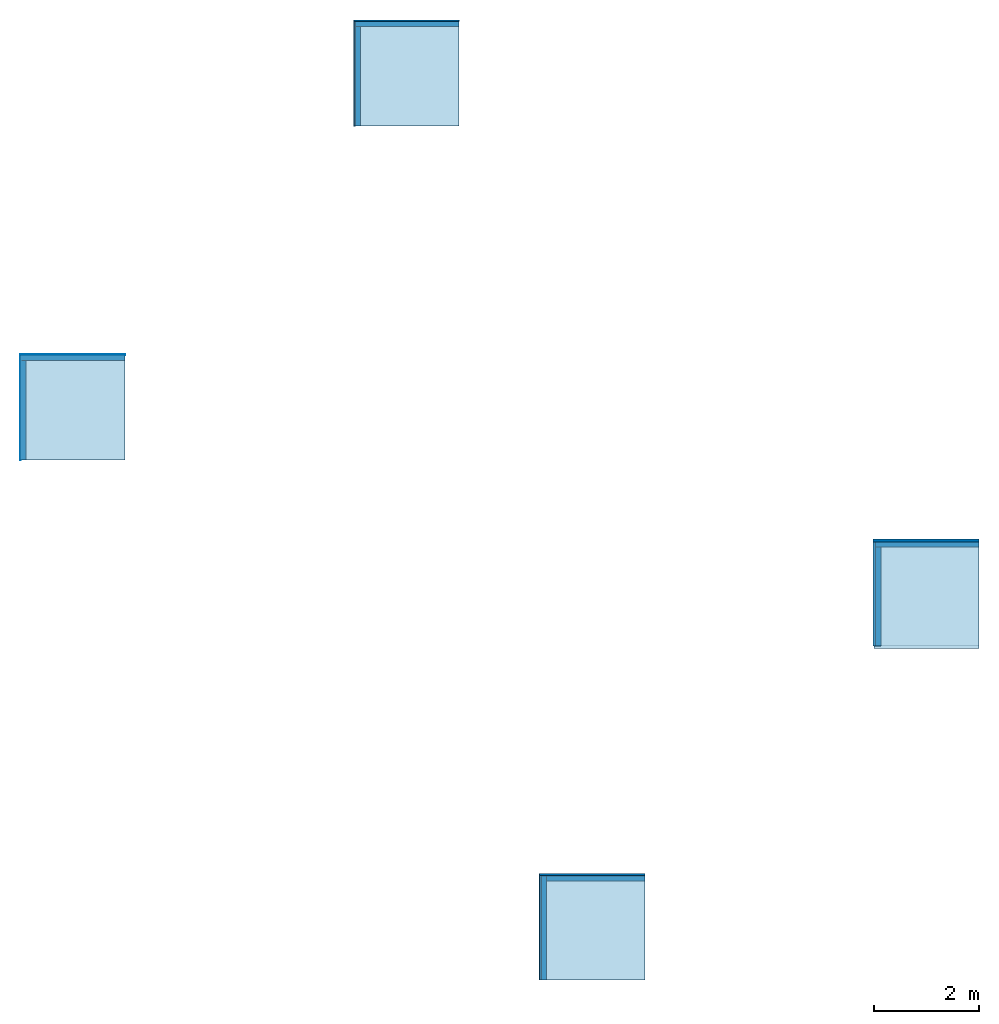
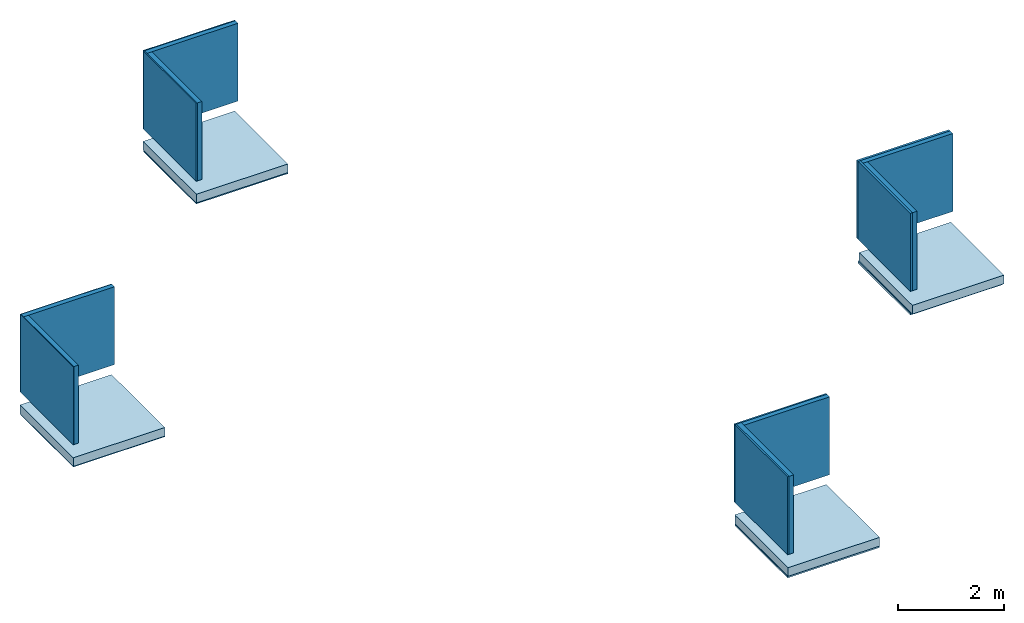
# One storey: 16 walls, 8 slabs.
"""IFC2X3 building model written with IfcOpenShell, lengths in millimetres."""

from ifc_helpers import new_model, entity, si_unit, converted_unit, derived_unit, direction, frame, frame_2d, origin, origin_2d_with_axis, place, context, subcontext, project, spatial, rectangle, extrude, material, layer, layer_set, layer_usage, type_object, element, save


model = new_model("IFC2X3")

# Units and contexts
model_context = context("Model", 3, precision=0.01, world=origin(), true_north=direction((6.12303176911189e-17, 1.0)))
context_of_model = context(None, 3, precision=0.01, world=origin(), true_north=direction((6.12303176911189e-17, 1.0)))
body_context = subcontext(model_context, "Body", "Model", "MODEL_VIEW")
ifc_project = project(units=[si_unit("LENGTHUNIT", "METRE", prefix="MILLI"), si_unit("AREAUNIT", "SQUARE_METRE"), si_unit("VOLUMEUNIT", "CUBIC_METRE"), converted_unit("PLANEANGLEUNIT", "DEGREE", entity("IfcRatioMeasure", 0.0174532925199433), si_unit("PLANEANGLEUNIT", "RADIAN"), dimensions=[0, 0, 0, 0, 0, 0, 0]), si_unit("MASSUNIT", "GRAM", prefix="KILO"), si_unit("TIMEUNIT", "SECOND"), si_unit("FREQUENCYUNIT", "HERTZ"), si_unit("THERMODYNAMICTEMPERATUREUNIT", "DEGREE_CELSIUS"), derived_unit("THERMALTRANSMITTANCEUNIT", [(si_unit("MASSUNIT", "GRAM", prefix="KILO"), 1), (si_unit("THERMODYNAMICTEMPERATUREUNIT", "KELVIN"), -1), (si_unit("TIMEUNIT", "SECOND"), -3)]), derived_unit("VOLUMETRICFLOWRATEUNIT", [(si_unit("LENGTHUNIT", "METRE"), 3), (si_unit("TIMEUNIT", "SECOND"), -1)]), si_unit("ELECTRICCURRENTUNIT", "AMPERE"), si_unit("ELECTRICVOLTAGEUNIT", "VOLT"), si_unit("POWERUNIT", "WATT"), si_unit("FORCEUNIT", "NEWTON", prefix="KILO"), si_unit("ILLUMINANCEUNIT", "LUX"), si_unit("LUMINOUSFLUXUNIT", "LUMEN"), si_unit("LUMINOUSINTENSITYUNIT", "CANDELA"), derived_unit("USERDEFINED", [(si_unit("MASSUNIT", "GRAM", prefix="KILO"), -1), (si_unit("LENGTHUNIT", "METRE"), -2), (si_unit("TIMEUNIT", "SECOND"), 3), (si_unit("LUMINOUSFLUXUNIT", "LUMEN"), 1)]), derived_unit("LINEARVELOCITYUNIT", [(si_unit("LENGTHUNIT", "METRE"), 1), (si_unit("TIMEUNIT", "SECOND"), -1)]), si_unit("PRESSUREUNIT", "PASCAL"), derived_unit("USERDEFINED", [(si_unit("LENGTHUNIT", "METRE"), -2), (si_unit("MASSUNIT", "GRAM", prefix="KILO"), 1), (si_unit("TIMEUNIT", "SECOND"), -2)])], contexts=[model_context, context_of_model])

# Site, building, storey
site_placement = place(None, origin())
site = spatial("IfcSite", under=ifc_project, at=site_placement, Name="Default", CompositionType="ELEMENT")
building_placement = place(site_placement, origin())
building = spatial("IfcBuilding", under=site, at=building_placement, CompositionType="ELEMENT")
storey_placement = place(building_placement, origin())
storey = spatial("IfcBuildingStorey", under=building, at=storey_placement, Name="00 begane grond", CompositionType="ELEMENT", Elevation=-2.77069864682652e-11)

# Slabs
ifc_material_1 = material(Name="Heraklith® | Basis - Houtwollaag - 2000x600mm")
ifc_layer_1 = layer(ifc_material_1, 15.0)
ifc_layer_set_1 = layer_set([ifc_layer_1], Name="Floor:NLRS_23_FL_Heraklith - Basis 15x2000x600mm")
ifc_layer_usage_1 = layer_usage(ifc_layer_set_1, "AXIS3", "POSITIVE", 0.0)
slab_1_placement = place(storey_placement, origin())
element("IfcSlab", 1, at=slab_1_placement, inside=storey, material=ifc_layer_usage_1, Name="Floor:NLRS_23_FL_Heraklith - Basis 15x2000x600mm", ObjectType="Floor:NLRS_23_FL_Heraklith - Basis 15x2000x600mm", PredefinedType="FLOOR", context=body_context, shape_type="SweptSolid", body=[
    extrude(rectangle(XDim=2000.0, YDim=2000.0, at=origin_2d_with_axis()), frame((1000.0, 1000.0, -500.0), z_axis=(0.0, 0.0, -1.0), x_axis=(0.0, 1.0, 0.0)), (0.0, 0.0, 1.0), 15.0),
])
ifc_layer_2 = layer(ifc_material_1, 25.0)
ifc_layer_set_2 = layer_set([ifc_layer_2], Name="Floor:NLRS_23_FL_Heraklith - Basis 25x2000x600mm")
ifc_layer_usage_2 = layer_usage(ifc_layer_set_2, "AXIS3", "POSITIVE", 0.0)
slab_2_placement = place(storey_placement, origin())
element("IfcSlab", 2, at=slab_2_placement, inside=storey, material=ifc_layer_usage_2, Name="Floor:NLRS_23_FL_Heraklith - Basis 25x2000x600mm", ObjectType="Floor:NLRS_23_FL_Heraklith - Basis 25x2000x600mm", PredefinedType="FLOOR", context=body_context, shape_type="SweptSolid", body=[
    extrude(rectangle(XDim=1994.99999999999, YDim=2005.0, at=frame_2d((-5.11590769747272e-13, -1.08002495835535e-12), x_axis=(1.0, 0.0))), frame((7361.4610306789, 7361.46103067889, -500.0), z_axis=(0.0, 0.0, -1.0), x_axis=(0.0, 1.0, 0.0)), (0.0, 0.0, 1.0), 25.0),
])
ifc_layer_3 = layer(ifc_material_1, 35.0)
ifc_layer_set_3 = layer_set([ifc_layer_3], Name="Floor:NLRS_23_FL_Heraklith - Basis 35x2000x600mm")
ifc_layer_usage_3 = layer_usage(ifc_layer_set_3, "AXIS3", "POSITIVE", 0.0)
slab_3_placement = place(storey_placement, origin())
element("IfcSlab", 3, at=slab_3_placement, inside=storey, material=ifc_layer_usage_3, Name="Floor:NLRS_23_FL_Heraklith - Basis 35x2000x600mm", ObjectType="Floor:NLRS_23_FL_Heraklith - Basis 35x2000x600mm", PredefinedType="FLOOR", context=body_context, shape_type="SweptSolid", body=[
    extrude(rectangle(XDim=1989.99999999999, YDim=2010.0, at=frame_2d((-5.11590769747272e-13, 0.0), x_axis=(1.0, 0.0))), frame((10894.4949366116, -8904.49493661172, -500.0), z_axis=(0.0, 0.0, -1.0), x_axis=(0.0, 1.0, 0.0)), (0.0, 0.0, 1.0), 35.0),
])
ifc_layer_4 = layer(ifc_material_1, 50.0)
ifc_layer_set_4 = layer_set([ifc_layer_4], Name="Floor:NLRS_23_FL_Heraklith - Basis 50x2000x600mm")
ifc_layer_usage_4 = layer_usage(ifc_layer_set_4, "AXIS3", "POSITIVE", 0.0)
slab_4_placement = place(storey_placement, origin())
element("IfcSlab", 4, at=slab_4_placement, inside=storey, material=ifc_layer_usage_4, Name="Floor:NLRS_23_FL_Heraklith - Basis 50x2000x600mm", ObjectType="Floor:NLRS_23_FL_Heraklith - Basis 50x2000x600mm", PredefinedType="FLOOR", context=body_context, shape_type="SweptSolid", body=[
    extrude(rectangle(XDim=1982.49999999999, YDim=2017.5, at=frame_2d((-1.70530256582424e-13, -1.08002495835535e-12), x_axis=(1.0, 0.0))), frame((17254.7059672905, -2544.2839059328, -500.0), z_axis=(0.0, 0.0, -1.0), x_axis=(0.0, 1.0, 0.0)), (0.0, 0.0, 1.0), 50.0),
])
ifc_material_2 = material(Name="Concrete, Precast Panels")
ifc_layer_5 = layer(ifc_material_2, 200.0)
ifc_layer_set_5 = layer_set([ifc_layer_5], Name="Floor:Generic 200mm")
ifc_layer_usage_5 = layer_usage(ifc_layer_set_5, "AXIS3", "POSITIVE", 0.0)
slab_5_placement = place(storey_placement, origin())
element("IfcSlab", 5, at=slab_5_placement, inside=storey, material=ifc_layer_usage_5, Name="Floor:Generic 200mm", ObjectType="Floor:Generic 200mm", PredefinedType="FLOOR", context=body_context, shape_type="SweptSolid", body=[
    extrude(rectangle(XDim=2015.00000000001, YDim=2000.0, at=origin_2d_with_axis()), frame((1000.0, 1007.49999999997, -300.0), z_axis=(0.0, 0.0, -1.0), x_axis=(0.0, 1.0, 0.0)), (0.0, 0.0, 1.0), 200.0),
])
ifc_layer_usage_6 = layer_usage(ifc_layer_set_5, "AXIS3", "POSITIVE", 0.0)
slab_6_placement = place(storey_placement, origin())
element("IfcSlab", 6, at=slab_6_placement, inside=storey, material=ifc_layer_usage_6, Name="Floor:Generic 200mm", ObjectType="Floor:Generic 200mm", PredefinedType="FLOOR", context=body_context, shape_type="SweptSolid", body=[
    extrude(rectangle(XDim=2015.00000000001, YDim=2000.0, at=frame_2d((1.08002495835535e-12, -5.11590769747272e-13), x_axis=(1.0, 0.0))), frame((7363.96103067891, 7371.46103067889, -300.0), z_axis=(0.0, 0.0, -1.0), x_axis=(0.0, 1.0, 0.0)), (0.0, 0.0, 1.0), 200.0),
])
ifc_layer_usage_7 = layer_usage(ifc_layer_set_5, "AXIS3", "POSITIVE", 0.0)
slab_7_placement = place(storey_placement, origin())
element("IfcSlab", 7, at=slab_7_placement, inside=storey, material=ifc_layer_usage_7, Name="Floor:Generic 200mm", ObjectType="Floor:Generic 200mm", PredefinedType="FLOOR", context=body_context, shape_type="SweptSolid", body=[
    extrude(rectangle(XDim=2015.00000000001, YDim=2000.0, at=frame_2d((0.0, -1.08002495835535e-12), x_axis=(1.0, 0.0))), frame((17263.4559672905, -2578.0339059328, -300.0), z_axis=(0.0, 0.0, -1.0), x_axis=(0.0, 1.0, 0.0)), (0.0, 0.0, 1.0), 200.0),
])
ifc_layer_usage_8 = layer_usage(ifc_layer_set_5, "AXIS3", "POSITIVE", 0.0)
slab_8_placement = place(storey_placement, origin())
element("IfcSlab", 8, at=slab_8_placement, inside=storey, material=ifc_layer_usage_8, Name="Floor:Generic 200mm", ObjectType="Floor:Generic 200mm", PredefinedType="FLOOR", context=body_context, shape_type="SweptSolid", body=[
    extrude(rectangle(XDim=2015.00000000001, YDim=2000.0, at=frame_2d((5.11590769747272e-13, -1.08002495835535e-12), x_axis=(1.0, 0.0))), frame((10899.4949366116, -8891.99493661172, -300.0), z_axis=(0.0, 0.0, -1.0), x_axis=(0.0, 1.0, 0.0)), (0.0, 0.0, 1.0), 200.0),
])

# Walls
ifc_layer_6 = layer(ifc_material_1, 15.0)
ifc_layer_set_6 = layer_set([ifc_layer_6], Name="Basic Wall:NLRS_42_WA_Heraklith - Basis 15x2000x600mm")
ifc_layer_usage_9 = layer_usage(ifc_layer_set_6, "AXIS2", "NEGATIVE", 7.5)
wall_type_1 = type_object("IfcWallType", Name="Basic Wall:NLRS_42_WA_Heraklith - Basis 15x2000x600mm", PredefinedType="STANDARD", material=ifc_layer_set_6)
wall_1_placement = place(storey_placement, frame((7.49999999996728, 0.0, 0.0), z_axis=(0.0, 0.0, 1.0), x_axis=(0.0, 1.0, 0.0)))
element("IfcWallStandardCase", 9, at=wall_1_placement, inside=storey, type_object=wall_type_1, material=ifc_layer_usage_9, Name="Basic Wall:NLRS_42_WA_Heraklith - Basis 15x2000x600mm", ObjectType="Basic Wall:NLRS_42_WA_Heraklith - Basis 15x2000x600mm", context=body_context, shape_type="SweptSolid", body=[
    extrude(rectangle(XDim=2000.0, YDim=15.0, at=frame_2d((1000.0, -1.33226762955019e-15), x_axis=(-1.0, 0.0))), origin(), (0.0, 0.0, 1.0), 1800.00000000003),
])
ifc_layer_7 = layer(ifc_material_1, 15.0)
ifc_layer_set_7 = layer_set([ifc_layer_7], Name="Basic Wall:NLRS_41_WA_Heraklith - Basis 15x2000x600mm")
ifc_layer_usage_10 = layer_usage(ifc_layer_set_7, "AXIS2", "NEGATIVE", 7.5)
wall_type_2 = type_object("IfcWallType", Name="Basic Wall:NLRS_41_WA_Heraklith - Basis 15x2000x600mm", PredefinedType="STANDARD", material=ifc_layer_set_7)
wall_2_placement = place(storey_placement, frame((2000.0, 2007.49999999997, 0.0), z_axis=(0.0, 0.0, 1.0), x_axis=(-1.0, 0.0, 0.0)))
element("IfcWallStandardCase", 10, at=wall_2_placement, inside=storey, type_object=wall_type_2, material=ifc_layer_usage_10, Name="Basic Wall:NLRS_41_WA_Heraklith - Basis 15x2000x600mm", ObjectType="Basic Wall:NLRS_41_WA_Heraklith - Basis 15x2000x600mm", context=body_context, shape_type="SweptSolid", body=[
    extrude(rectangle(XDim=2000.0, YDim=14.9999999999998, at=frame_2d((1000.0, 1.68753899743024e-14), x_axis=(-1.0, 0.0))), origin(), (0.0, 0.0, 1.0), 1800.00000000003),
])
ifc_layer_8 = layer(ifc_material_1, 25.0)
ifc_layer_set_8 = layer_set([ifc_layer_8], Name="Basic Wall:NLRS_42_WA_Heraklith - Basis 25x2000x600mm")
ifc_layer_usage_11 = layer_usage(ifc_layer_set_8, "AXIS2", "NEGATIVE", 12.5)
wall_type_3 = type_object("IfcWallType", Name="Basic Wall:NLRS_42_WA_Heraklith - Basis 25x2000x600mm", PredefinedType="STANDARD", material=ifc_layer_set_8)
wall_3_placement = place(storey_placement, frame((6371.4610306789, 6363.96103067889, 0.0), z_axis=(0.0, 0.0, 1.0), x_axis=(0.0, 1.0, 0.0)))
element("IfcWallStandardCase", 11, at=wall_3_placement, inside=storey, type_object=wall_type_3, material=ifc_layer_usage_11, Name="Basic Wall:NLRS_42_WA_Heraklith - Basis 25x2000x600mm", ObjectType="Basic Wall:NLRS_42_WA_Heraklith - Basis 25x2000x600mm", context=body_context, shape_type="SweptSolid", body=[
    extrude(rectangle(XDim=1995.0, YDim=25.0000000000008, at=frame_2d((997.5, -4.44089209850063e-15), x_axis=(-1.0, 0.0))), origin(), (0.0, 0.0, 1.0), 1800.00000000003),
])
ifc_layer_9 = layer(ifc_material_1, 25.0)
ifc_layer_set_9 = layer_set([ifc_layer_9], Name="Basic Wall:NLRS_41_WA_Heraklith - Basis 25x2000x600mm")
ifc_layer_usage_12 = layer_usage(ifc_layer_set_9, "AXIS2", "NEGATIVE", 12.5)
wall_type_4 = type_object("IfcWallType", Name="Basic Wall:NLRS_41_WA_Heraklith - Basis 25x2000x600mm", PredefinedType="STANDARD", material=ifc_layer_set_9)
wall_4_placement = place(storey_placement, frame((8363.9610306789, 8371.46103067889, 0.0), z_axis=(0.0, 0.0, 1.0), x_axis=(-1.0, 0.0, 0.0)))
element("IfcWallStandardCase", 12, at=wall_4_placement, inside=storey, type_object=wall_type_4, material=ifc_layer_usage_12, Name="Basic Wall:NLRS_41_WA_Heraklith - Basis 25x2000x600mm", ObjectType="Basic Wall:NLRS_41_WA_Heraklith - Basis 25x2000x600mm", context=body_context, shape_type="SweptSolid", body=[
    extrude(rectangle(XDim=2005.0, YDim=25.0000000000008, at=frame_2d((1002.5, 1.60760293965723e-13), x_axis=(-1.0, 0.0))), origin(), (0.0, 0.0, 1.0), 1800.00000000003),
])
ifc_layer_10 = layer(ifc_material_1, 35.0)
ifc_layer_set_10 = layer_set([ifc_layer_10], Name="Basic Wall:NLRS_42_WA_Heraklith - Basis 35x2000x600mm")
ifc_layer_usage_13 = layer_usage(ifc_layer_set_10, "AXIS2", "NEGATIVE", 17.5)
wall_type_5 = type_object("IfcWallType", Name="Basic Wall:NLRS_42_WA_Heraklith - Basis 35x2000x600mm", PredefinedType="STANDARD", material=ifc_layer_set_10)
wall_5_placement = place(storey_placement, frame((9906.99493661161, -9899.49493661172, 0.0), z_axis=(0.0, 0.0, 1.0), x_axis=(0.0, 1.0, 0.0)))
element("IfcWallStandardCase", 13, at=wall_5_placement, inside=storey, type_object=wall_type_5, material=ifc_layer_usage_13, Name="Basic Wall:NLRS_42_WA_Heraklith - Basis 35x2000x600mm", ObjectType="Basic Wall:NLRS_42_WA_Heraklith - Basis 35x2000x600mm", context=body_context, shape_type="SweptSolid", body=[
    extrude(rectangle(XDim=1990.0, YDim=35.0000000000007, at=frame_2d((995.0, 5.32907051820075e-13), x_axis=(-1.0, 0.0))), origin(), (0.0, 0.0, 1.0), 1800.00000000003),
])
ifc_layer_11 = layer(ifc_material_1, 35.0)
ifc_layer_set_11 = layer_set([ifc_layer_11], Name="Basic Wall:NLRS_41_WA_Heraklith - Basis 35x2000x600mm")
ifc_layer_usage_14 = layer_usage(ifc_layer_set_11, "AXIS2", "NEGATIVE", 17.5)
wall_type_6 = type_object("IfcWallType", Name="Basic Wall:NLRS_41_WA_Heraklith - Basis 35x2000x600mm", PredefinedType="STANDARD", material=ifc_layer_set_11)
wall_6_placement = place(storey_placement, frame((11899.4949366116, -7891.99493661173, 0.0), z_axis=(0.0, 0.0, 1.0), x_axis=(-1.0, 0.0, 0.0)))
element("IfcWallStandardCase", 14, at=wall_6_placement, inside=storey, type_object=wall_type_6, material=ifc_layer_usage_14, Name="Basic Wall:NLRS_41_WA_Heraklith - Basis 35x2000x600mm", ObjectType="Basic Wall:NLRS_41_WA_Heraklith - Basis 35x2000x600mm", context=body_context, shape_type="SweptSolid", body=[
    extrude(rectangle(XDim=2010.0, YDim=35.0000000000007, at=frame_2d((1005.0, 1.70530256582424e-13), x_axis=(-1.0, 0.0))), origin(), (0.0, 0.0, 1.0), 1800.00000000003),
])
ifc_layer_12 = layer(ifc_material_1, 50.0)
ifc_layer_set_12 = layer_set([ifc_layer_12], Name="Basic Wall:NLRS_42_WA_Heraklith - Basis 50x2000x600mm")
ifc_layer_usage_15 = layer_usage(ifc_layer_set_12, "AXIS2", "NEGATIVE", 25.0)
wall_type_7 = type_object("IfcWallType", Name="Basic Wall:NLRS_42_WA_Heraklith - Basis 50x2000x600mm", PredefinedType="STANDARD", material=ifc_layer_set_12)
wall_7_placement = place(storey_placement, frame((16270.9559672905, -3535.5339059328, 0.0), z_axis=(0.0, 0.0, 1.0), x_axis=(0.0, 1.0, 0.0)))
element("IfcWallStandardCase", 15, at=wall_7_placement, inside=storey, type_object=wall_type_7, material=ifc_layer_usage_15, Name="Basic Wall:NLRS_42_WA_Heraklith - Basis 50x2000x600mm", ObjectType="Basic Wall:NLRS_42_WA_Heraklith - Basis 50x2000x600mm", context=body_context, shape_type="SweptSolid", body=[
    extrude(rectangle(XDim=1982.5, YDim=50.0000000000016, at=frame_2d((991.25, 5.27577981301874e-13), x_axis=(-1.0, 0.0))), origin(), (0.0, 0.0, 1.0), 1800.00000000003),
])
ifc_layer_13 = layer(ifc_material_1, 50.0)
ifc_layer_set_13 = layer_set([ifc_layer_13], Name="Basic Wall:NLRS_41_WA_Heraklith - Basis 50x2000x600mm")
ifc_layer_usage_16 = layer_usage(ifc_layer_set_13, "AXIS2", "NEGATIVE", 25.0)
wall_type_8 = type_object("IfcWallType", Name="Basic Wall:NLRS_41_WA_Heraklith - Basis 50x2000x600mm", PredefinedType="STANDARD", material=ifc_layer_set_13)
wall_8_placement = place(storey_placement, frame((18263.4559672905, -1528.0339059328, 0.0), z_axis=(0.0, 0.0, 1.0), x_axis=(-1.0, 0.0, 0.0)))
element("IfcWallStandardCase", 16, at=wall_8_placement, inside=storey, type_object=wall_type_8, material=ifc_layer_usage_16, Name="Basic Wall:NLRS_41_WA_Heraklith - Basis 50x2000x600mm", ObjectType="Basic Wall:NLRS_41_WA_Heraklith - Basis 50x2000x600mm", context=body_context, shape_type="SweptSolid", body=[
    extrude(rectangle(XDim=2015.0, YDim=50.0, at=frame_2d((1007.5, 4.2632564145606e-14), x_axis=(-1.0, 0.0))), origin(), (0.0, 0.0, 1.0), 1800.00000000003),
])
ifc_layer_14 = layer(ifc_material_2, 100.0)
ifc_layer_set_14 = layer_set([ifc_layer_14], Name="Basic Wall:Generic_100mm")
ifc_layer_usage_17 = layer_usage(ifc_layer_set_14, "AXIS2", "NEGATIVE", 50.0)
wall_type_9 = type_object("IfcWallType", Name="Basic Wall:Generic_100mm", PredefinedType="STANDARD", material=ifc_layer_set_14)
wall_9_placement = place(storey_placement, frame((65.0, 0.0, 0.0), z_axis=(0.0, 0.0, 1.0), x_axis=(0.0, 1.0, 0.0)))
element("IfcWallStandardCase", 17, at=wall_9_placement, inside=storey, type_object=wall_type_9, material=ifc_layer_usage_17, Name="Basic Wall:Generic_100mm", ObjectType="Basic Wall:Generic_100mm", context=body_context, shape_type="SweptSolid", body=[
    extrude(rectangle(XDim=1900.0, YDim=100.0, at=frame_2d((950.000000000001, -7.105427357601e-15), x_axis=(-1.0, 0.0))), origin(), (0.0, 0.0, 1.0), 1800.00000000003),
])
ifc_layer_usage_18 = layer_usage(ifc_layer_set_14, "AXIS2", "POSITIVE", -50.0)
wall_10_placement = place(storey_placement, frame((2000.0, 1950.0, 0.0), z_axis=(0.0, 0.0, 1.0), x_axis=(-1.0, 0.0, 0.0)))
element("IfcWallStandardCase", 18, at=wall_10_placement, inside=storey, type_object=wall_type_9, material=ifc_layer_usage_18, Name="Basic Wall:Generic_100mm", ObjectType="Basic Wall:Generic_100mm", context=body_context, shape_type="SweptSolid", body=[
    extrude(rectangle(XDim=1985.0, YDim=100.0, at=frame_2d((992.5, 0.0), x_axis=(-1.0, 0.0))), origin(), (0.0, 0.0, 1.0), 1800.00000000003),
])
ifc_layer_usage_19 = layer_usage(ifc_layer_set_14, "AXIS2", "NEGATIVE", 50.0)
wall_11_placement = place(storey_placement, frame((6433.9610306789, 6363.96103067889, 0.0), z_axis=(0.0, 0.0, 1.0), x_axis=(0.0, 1.0, 0.0)))
element("IfcWallStandardCase", 19, at=wall_11_placement, inside=storey, type_object=wall_type_9, material=ifc_layer_usage_19, Name="Basic Wall:Generic_100mm", ObjectType="Basic Wall:Generic_100mm", context=body_context, shape_type="SweptSolid", body=[
    extrude(rectangle(XDim=1895.0, YDim=99.9999999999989, at=frame_2d((947.499999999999, -8.5265128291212e-14), x_axis=(-1.0, 0.0))), origin(), (0.0, 0.0, 1.0), 1800.00000000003),
])
ifc_layer_usage_20 = layer_usage(ifc_layer_set_14, "AXIS2", "POSITIVE", -50.0)
wall_12_placement = place(storey_placement, frame((8363.9610306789, 8308.96103067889, 0.0), z_axis=(0.0, 0.0, 1.0), x_axis=(-1.0, 0.0, 0.0)))
element("IfcWallStandardCase", 20, at=wall_12_placement, inside=storey, type_object=wall_type_9, material=ifc_layer_usage_20, Name="Basic Wall:Generic_100mm", ObjectType="Basic Wall:Generic_100mm", context=body_context, shape_type="SweptSolid", body=[
    extrude(rectangle(XDim=1980.0, YDim=100.000000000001, at=frame_2d((990.000000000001, 0.0), x_axis=(-1.0, 0.0))), origin(), (0.0, 0.0, 1.0), 1800.00000000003),
])
ifc_layer_usage_21 = layer_usage(ifc_layer_set_14, "AXIS2", "NEGATIVE", 50.0)
wall_13_placement = place(storey_placement, frame((16345.9559672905, -3535.5339059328, 0.0), z_axis=(0.0, 0.0, 1.0), x_axis=(0.0, 1.0, 0.0)))
element("IfcWallStandardCase", 21, at=wall_13_placement, inside=storey, type_object=wall_type_9, material=ifc_layer_usage_21, Name="Basic Wall:Generic_100mm", ObjectType="Basic Wall:Generic_100mm", context=body_context, shape_type="SweptSolid", body=[
    extrude(rectangle(XDim=1882.5, YDim=99.9999999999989, at=frame_2d((941.249999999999, 1.77635683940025e-14), x_axis=(-1.0, 0.0))), origin(), (0.0, 0.0, 1.0), 1800.00000000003),
])
ifc_layer_usage_22 = layer_usage(ifc_layer_set_14, "AXIS2", "POSITIVE", -50.0)
wall_14_placement = place(storey_placement, frame((18263.4559672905, -1603.0339059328, 0.0), z_axis=(0.0, 0.0, 1.0), x_axis=(-1.0, 0.0, 0.0)))
element("IfcWallStandardCase", 22, at=wall_14_placement, inside=storey, type_object=wall_type_9, material=ifc_layer_usage_22, Name="Basic Wall:Generic_100mm", ObjectType="Basic Wall:Generic_100mm", context=body_context, shape_type="SweptSolid", body=[
    extrude(rectangle(XDim=1967.5, YDim=100.0, at=frame_2d((983.75, 0.0), x_axis=(-1.0, 0.0))), origin(), (0.0, 0.0, 1.0), 1800.00000000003),
])
ifc_layer_usage_23 = layer_usage(ifc_layer_set_14, "AXIS2", "NEGATIVE", 50.0)
wall_15_placement = place(storey_placement, frame((9974.49493661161, -9899.49493661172, 0.0), z_axis=(0.0, 0.0, 1.0), x_axis=(0.0, 1.0, 0.0)))
element("IfcWallStandardCase", 23, at=wall_15_placement, inside=storey, type_object=wall_type_9, material=ifc_layer_usage_23, Name="Basic Wall:Generic_100mm", ObjectType="Basic Wall:Generic_100mm", context=body_context, shape_type="SweptSolid", body=[
    extrude(rectangle(XDim=1990.0, YDim=99.9999999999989, at=frame_2d((994.999999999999, 4.2632564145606e-14), x_axis=(-1.0, 0.0))), origin(), (0.0, 0.0, 1.0), 1800.00000000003),
])
ifc_layer_usage_24 = layer_usage(ifc_layer_set_14, "AXIS2", "NEGATIVE", 50.0)
wall_16_placement = place(storey_placement, frame((10024.4949366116, -7959.49493661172, 0.0)))
element("IfcWallStandardCase", 24, at=wall_16_placement, inside=storey, type_object=wall_type_9, material=ifc_layer_usage_24, Name="Basic Wall:Generic_100mm", ObjectType="Basic Wall:Generic_100mm", context=body_context, shape_type="SweptSolid", body=[
    extrude(rectangle(XDim=1875.0, YDim=99.9999999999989, at=frame_2d((937.499999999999, -1.63424829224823e-13), x_axis=(-1.0, 0.0))), origin(), (0.0, 0.0, 1.0), 1800.00000000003),
])

save(model, "model.ifc")
